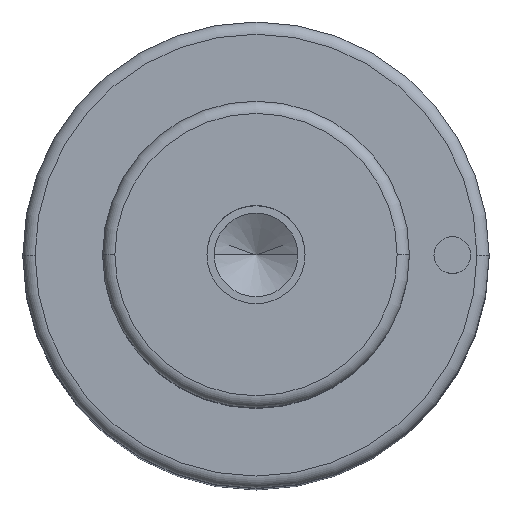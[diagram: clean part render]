
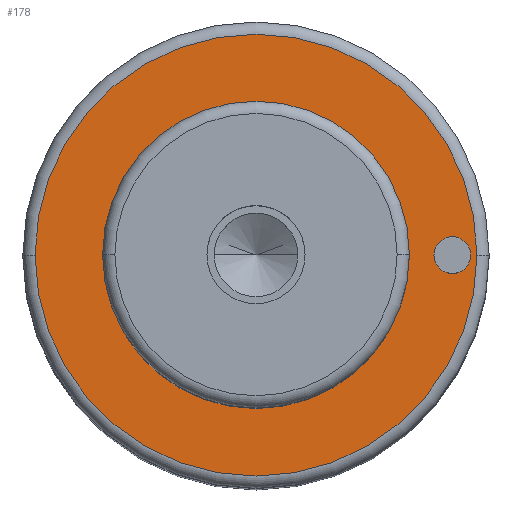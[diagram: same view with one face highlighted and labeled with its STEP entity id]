
A CAD part, top view. The second image highlights one B-rep face of the part: STEP entity #178.
In plain terms, the highlighted planar face has unit normal (0, 0, 1).
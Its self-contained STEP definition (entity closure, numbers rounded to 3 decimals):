
#105=PLANE('',#866);
#115=FACE_BOUND('',#283,.T.);
#116=FACE_BOUND('',#284,.T.);
#117=FACE_BOUND('',#285,.T.);
#178=ADVANCED_FACE('',(#115,#116,#117),#105,.T.);
#283=EDGE_LOOP('',(#473,#474));
#284=EDGE_LOOP('',(#475,#476));
#285=EDGE_LOOP('',(#477,#478));
#333=CIRCLE('',#834,12.5);
#334=CIRCLE('',#836,12.5);
#338=CIRCLE('',#841,18.);
#339=CIRCLE('',#843,18.);
#351=CIRCLE('',#864,1.5);
#352=CIRCLE('',#865,1.5);
#473=ORIENTED_EDGE('',*,*,#666,.F.);
#474=ORIENTED_EDGE('',*,*,#667,.F.);
#475=ORIENTED_EDGE('',*,*,#685,.F.);
#476=ORIENTED_EDGE('',*,*,#686,.F.);
#477=ORIENTED_EDGE('',*,*,#662,.T.);
#478=ORIENTED_EDGE('',*,*,#660,.T.);
#590=VERTEX_POINT('',#1233);
#591=VERTEX_POINT('',#1235);
#592=VERTEX_POINT('',#1241);
#595=VERTEX_POINT('',#1246);
#604=VERTEX_POINT('',#1285);
#605=VERTEX_POINT('',#1286);
#660=EDGE_CURVE('',#591,#590,#333,.T.);
#662=EDGE_CURVE('',#590,#591,#334,.T.);
#666=EDGE_CURVE('',#595,#592,#338,.T.);
#667=EDGE_CURVE('',#592,#595,#339,.T.);
#685=EDGE_CURVE('',#604,#605,#351,.T.);
#686=EDGE_CURVE('',#605,#604,#352,.T.);
#834=AXIS2_PLACEMENT_3D('',#1234,#985,#986);
#836=AXIS2_PLACEMENT_3D('',#1238,#990,#991);
#841=AXIS2_PLACEMENT_3D('',#1247,#1000,#1001);
#843=AXIS2_PLACEMENT_3D('',#1249,#1004,#1005);
#864=AXIS2_PLACEMENT_3D('',#1284,#1052,#1053);
#865=AXIS2_PLACEMENT_3D('',#1287,#1054,#1055);
#866=AXIS2_PLACEMENT_3D('',#1288,#1056,#1057);
#985=DIRECTION('',(0.,0.,-1.));
#986=DIRECTION('',(0.,1.,0.));
#990=DIRECTION('',(0.,0.,-1.));
#991=DIRECTION('',(0.,-1.,0.));
#1000=DIRECTION('',(0.,0.,-1.));
#1001=DIRECTION('',(0.,1.,0.));
#1004=DIRECTION('',(0.,0.,-1.));
#1005=DIRECTION('',(0.,-1.,0.));
#1052=DIRECTION('',(0.,0.,1.));
#1053=DIRECTION('',(0.,1.,0.));
#1054=DIRECTION('',(0.,0.,1.));
#1055=DIRECTION('',(0.,-1.,0.));
#1056=DIRECTION('',(0.,0.,1.));
#1057=DIRECTION('',(0.,-1.,0.));
#1233=CARTESIAN_POINT('',(-12.5,0.,78.));
#1234=CARTESIAN_POINT('',(0.,0.,78.));
#1235=CARTESIAN_POINT('',(12.5,0.,78.));
#1238=CARTESIAN_POINT('',(0.,0.,78.));
#1241=CARTESIAN_POINT('',(-18.,0.,78.));
#1246=CARTESIAN_POINT('',(18.,0.,78.));
#1247=CARTESIAN_POINT('',(0.,0.,78.));
#1249=CARTESIAN_POINT('',(0.,0.,78.));
#1284=CARTESIAN_POINT('',(16.,0.,78.));
#1285=CARTESIAN_POINT('',(14.5,0.,78.));
#1286=CARTESIAN_POINT('',(17.5,0.,78.));
#1287=CARTESIAN_POINT('',(16.,0.,78.));
#1288=CARTESIAN_POINT('',(0.,0.,78.));
